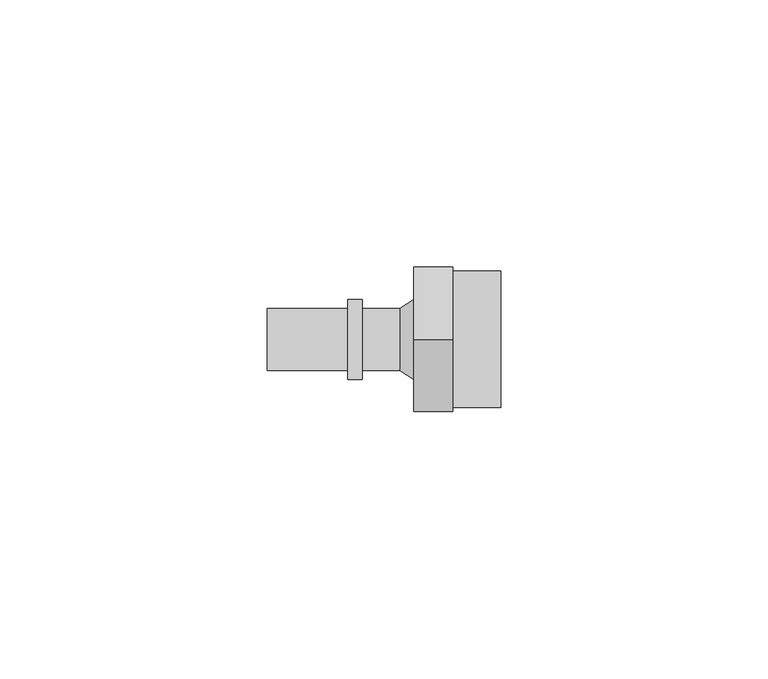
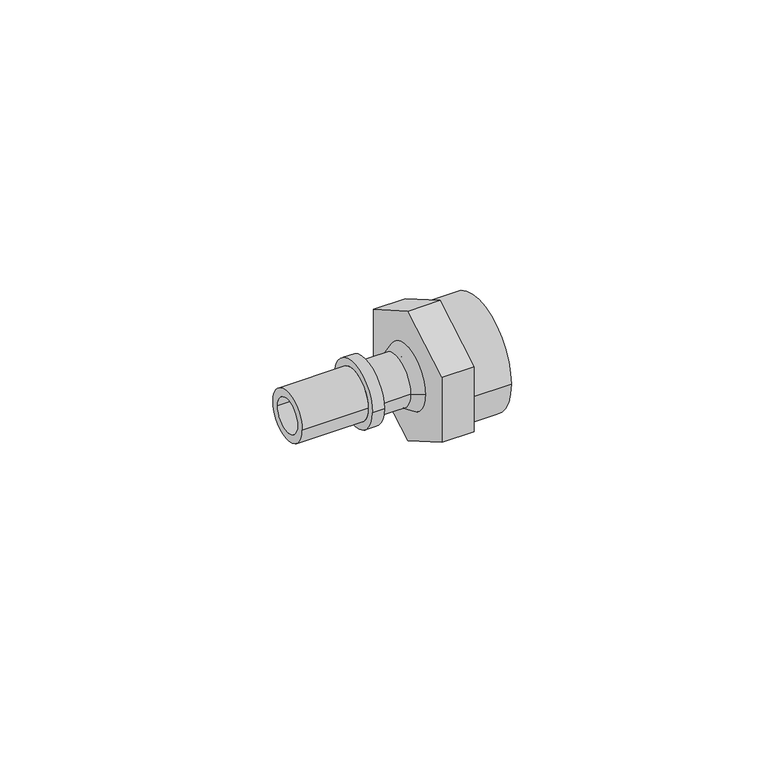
"""IFC4 building model written with IfcOpenShell, lengths in millimetres: pipe fitting geometry, FASTLOC_Adapter_LX, with internal thread : FSL A internal PL."""

from ifc_helpers import new_model, si_unit, point, frame, origin, origin_2d, place, context, project, spatial, polyline, circle_curve, trimmed, segment, composite_curve, outline, extrude, source, transform, mapped, element, save
from ifc_brep_helpers import plane_surface, cylinder_surface, revolved_surface, advanced_brep


def pipe_fitting_23295b15(model_context):
    return source(origin(), model_context, "Body", "SolidModel", [
        extrude(outline(composite_curve([segment(trimmed(circle_curve(origin_2d(), 12.75), [point((-12.75, 0.0))], [point((12.75, 0.0))], False, "CARTESIAN"), True, "CONTINUOUS"), segment(trimmed(circle_curve(origin_2d(), 12.75), [point((12.75, 0.0))], [point((-12.75, 0.0))], False, "CARTESIAN"), True, "CONTINUOUS")], self_intersect=False), holes=[composite_curve([segment(trimmed(circle_curve(origin_2d(), 9.3), [point((-9.3, 0.0))], [point((9.3, 0.0))], True, "CARTESIAN"), True, "CONTINUOUS"), segment(trimmed(circle_curve(origin_2d(), 9.3), [point((9.3, 0.0))], [point((-9.3, 0.0))], True, "CARTESIAN"), True, "CONTINUOUS")], self_intersect=False)]), frame((7.3, 0.0, 0.0), z_axis=(1.0, 0.0, 0.0), x_axis=(0.0, 1.0, 0.0)), (0.0, 0.0, 1.0), 8.9),
        extrude(outline(polyline([(0.0, -15.5884573), (-13.5, -7.7942286), (-13.5, 7.7942286), (0.0, 15.5884573), (13.5, 7.7942286), (13.5, -7.7942286), (0.0, -15.5884573)]), holes=[composite_curve([segment(trimmed(circle_curve(origin_2d(), 3.95), [point((-3.95, 0.0))], [point((3.95, 0.0))], True, "CARTESIAN"), True, "CONTINUOUS"), segment(trimmed(circle_curve(origin_2d(), 3.95), [point((3.95, 0.0))], [point((-3.95, 0.0))], True, "CARTESIAN"), True, "CONTINUOUS")], self_intersect=False)]), frame((0.0, 0.0, 0.0), z_axis=(1.0, 0.0, 0.0), x_axis=(0.0, 1.0, 0.0)), (0.0, 0.0, 1.0), 7.3),
        advanced_brep(
        [(-12.4, 5.8, 0.0), (-12.4, -5.8, 0.0), (-27.4, -5.8, 0.0), (-27.4, 5.8, 0.0), (-9.7, 7.5, 0.0), (-9.7, -7.5, 0.0), (-12.4, -7.5, 0.0), (-12.4, 7.5, 0.0), (-2.7, 5.8, 0.0), (-2.7, -5.8, 0.0), (-9.7, -5.8, 0.0), (-9.7, 5.8, 0.0), (0.0, 7.5, 0.0), (0.0, -7.5, 0.0), (-27.4, 3.95, 0.0), (-27.4, -3.95, 0.0), (0.0, -3.95, 0.0), (0.0, 3.95, 0.0)],
        [
            (0, 1, circle_curve(frame((-12.4, 0.0, 0.0), z_axis=(-1.0, 0.0, 0.0), x_axis=(0.0, -1.0, 0.0)), 5.8)),
            (1, 2),
            (2, 3, circle_curve(frame((-27.4, 0.0, 0.0), z_axis=(1.0, 0.0, 0.0), x_axis=(0.0, -1.0, 0.0)), 5.8)),
            (3, 0),
            (4, 5, circle_curve(frame((-9.7, 0.0, 0.0), z_axis=(-1.0, 0.0, 0.0), x_axis=(0.0, -1.0, 0.0)), 7.5)),
            (5, 6),
            (6, 7, circle_curve(frame((-12.4, 0.0, 0.0), z_axis=(1.0, 0.0, 0.0), x_axis=(0.0, -1.0, 0.0)), 7.5)),
            (7, 4),
            (8, 9, circle_curve(frame((-2.7, 0.0, 0.0), z_axis=(-1.0, 0.0, 0.0), x_axis=(0.0, -1.0, 0.0)), 5.8)),
            (9, 10),
            (10, 11, circle_curve(frame((-9.7, 0.0, 0.0), z_axis=(1.0, 0.0, 0.0), x_axis=(0.0, -1.0, 0.0)), 5.8)),
            (11, 8),
            (12, 13, circle_curve(frame((0.0, 0.0, 0.0), z_axis=(-1.0, 0.0, 0.0), x_axis=(0.0, -1.0, 0.0)), 7.5)),
            (13, 9),
            (8, 12),
            (14, 15, circle_curve(frame((-27.4, 0.0, 0.0), z_axis=(-1.0, 0.0, 0.0), x_axis=(0.0, -1.0, 0.0)), 3.95)),
            (15, 16),
            (16, 17, circle_curve(frame((0.0, 0.0, 0.0), z_axis=(1.0, 0.0, 0.0), x_axis=(0.0, -1.0, 0.0)), 3.95)),
            (17, 14),
            (2, 3, circle_curve(frame((-27.4, 0.0, 0.0), z_axis=(-1.0, 0.0, 0.0), x_axis=(0.0, 1.0, 0.0)), 5.8)),
            (14, 15, circle_curve(frame((-27.4, 0.0, 0.0), z_axis=(1.0, 0.0, 0.0), x_axis=(0.0, 1.0, 0.0)), 3.95)),
            (1, 0, circle_curve(frame((-12.4, 0.0, 0.0), z_axis=(-1.0, 0.0, 0.0), x_axis=(0.0, 1.0, 0.0)), 5.8)),
            (6, 7, circle_curve(frame((-12.4, 0.0, 0.0), z_axis=(-1.0, 0.0, 0.0), x_axis=(0.0, 1.0, 0.0)), 7.5)),
            (5, 4, circle_curve(frame((-9.7, 0.0, 0.0), z_axis=(-1.0, 0.0, 0.0), x_axis=(0.0, 1.0, 0.0)), 7.5)),
            (10, 11, circle_curve(frame((-9.7, 0.0, 0.0), z_axis=(-1.0, 0.0, 0.0), x_axis=(0.0, 1.0, 0.0)), 5.8)),
            (9, 8, circle_curve(frame((-2.7, 0.0, 0.0), z_axis=(-1.0, 0.0, 0.0), x_axis=(0.0, 1.0, 0.0)), 5.8)),
            (13, 12, circle_curve(frame((0.0, 0.0, 0.0), z_axis=(-1.0, 0.0, 0.0), x_axis=(0.0, 1.0, 0.0)), 7.5)),
            (16, 17, circle_curve(frame((0.0, 0.0, 0.0), z_axis=(-1.0, 0.0, 0.0), x_axis=(0.0, 1.0, 0.0)), 3.95)),
        ],
        [
            cylinder_surface(frame((0.0, 0.0, 0.0), z_axis=(1.0, 0.0, 0.0), x_axis=(0.0, -1.0, 0.0)), 5.8),
            cylinder_surface(frame((0.0, 0.0, 0.0), z_axis=(1.0, 0.0, 0.0), x_axis=(0.0, -1.0, 0.0)), 7.5),
            revolved_surface(polyline([(-2.7, -5.8, 0.0), (0.0, -7.5, 0.0)]), (0.0, 0.0, 0.0), (1.0, 0.0, 0.0)),
            revolved_surface(polyline([(0.0, -3.95, 0.0), (-27.4, -3.95, 0.0)]), (0.0, 0.0, 0.0), (1.0, 0.0, 0.0)),
            plane_surface(frame((-27.4, 0.0, 0.0), z_axis=(-1.0, 0.0, 0.0), x_axis=(0.0, 1.0, 0.0))),
            cylinder_surface(frame((0.0, 0.0, 0.0), z_axis=(1.0, 0.0, 0.0), x_axis=(0.0, 1.0, 0.0)), 5.8),
            plane_surface(frame((-12.4, 0.0, 0.0), z_axis=(-1.0, 0.0, 0.0), x_axis=(0.0, 1.0, 0.0))),
            cylinder_surface(frame((0.0, 0.0, 0.0), z_axis=(1.0, 0.0, 0.0), x_axis=(0.0, 1.0, 0.0)), 7.5),
            plane_surface(frame((-9.7, 0.0, 0.0), z_axis=(1.0, 0.0, 0.0), x_axis=(0.0, 1.0, 0.0))),
            revolved_surface(polyline([(-2.7, 5.8, 0.0), (0.0, 7.5, 0.0)]), (0.0, 0.0, 0.0), (1.0, 0.0, 0.0)),
            plane_surface(frame((0.0, 0.0, 0.0), z_axis=(1.0, 0.0, 0.0), x_axis=(0.0, 1.0, 0.0))),
            revolved_surface(polyline([(0.0, 3.95, 0.0), (-27.4, 3.95, 0.0)]), (0.0, 0.0, 0.0), (1.0, 0.0, 0.0)),
        ],
        [
            (0, [[1, 2, 3, 4]]),
            (1, [[5, 6, 7, 8]]),
            (0, [[9, 10, 11, 12]]),
            (2, [[13, 14, -9, 15]]),
            (3, [[16, 17, 18, 19]]),
            (4, [[20, -3], [21, -16]]),
            (5, [[22, -4, -20, -2]]),
            (6, [[23, -7], [-22, -1]]),
            (7, [[24, -8, -23, -6]]),
            (8, [[-24, -5], [25, -11]]),
            (5, [[26, -12, -25, -10]]),
            (9, [[27, -15, -26, -14]]),
            (10, [[-27, -13], [28, -18]]),
            (11, [[-21, -19, -28, -17]]),
        ],
    ),
    ])


if __name__ == "__main__":
    model = new_model("IFC4")
    model_context = context("Model", 3, world=origin())
    ifc_project = project(units=[si_unit("LENGTHUNIT", "METRE", prefix="MILLI")], contexts=[model_context])
    site = spatial("IfcSite", under=ifc_project)
    building = spatial("IfcBuilding", under=site)
    placement = place(None, origin())
    pipe_fitting_shape = pipe_fitting_23295b15(model_context)
    element("IfcPipeFitting", 1, ObjectType="FASTLOC_Adapter_LX, with internal thread : FSL A internal PL", at=placement, inside=building, context=model_context, shape_type="MappedRepresentation", body=[
        mapped(pipe_fitting_shape, transform((0.0, 0.0, 0.0), x_axis=(1.0, 0.0, 0.0), y_axis=(0.0, 1.0, 0.0), z_axis=(0.0, 0.0, 1.0))),
    ])
    save(model, "model.ifc")
